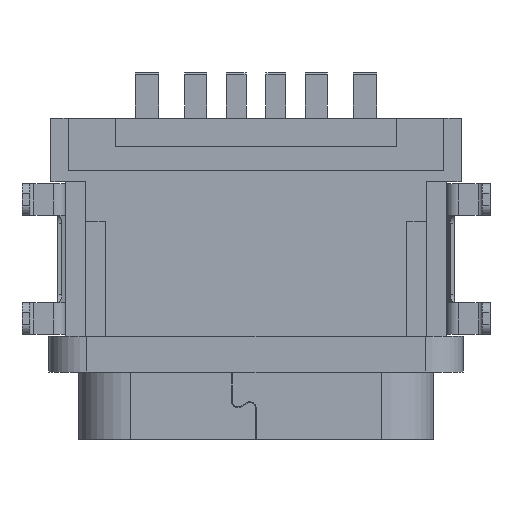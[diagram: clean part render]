
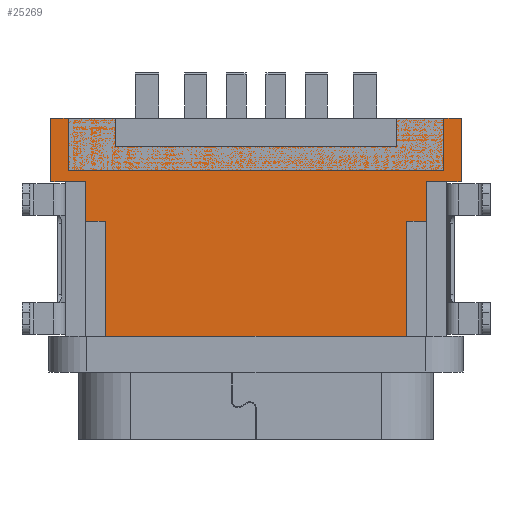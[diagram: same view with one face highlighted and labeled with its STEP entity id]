
A CAD part, front view. The second image highlights one B-rep face of the part: STEP entity #25269.
In plain terms, the highlighted planar face has unit normal (0, -1, 0).
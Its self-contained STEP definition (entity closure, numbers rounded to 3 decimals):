
#24203=DIRECTION('',(0.,0.,-1.));
#24204=VECTOR('',#24203,0.725);
#24205=CARTESIAN_POINT('',(18.55,-2.23,7.925));
#24206=LINE('',#24205,#24204);
#24220=DIRECTION('',(-1.,0.,0.));
#24221=VECTOR('',#24220,1.62);
#24222=CARTESIAN_POINT('',(20.17,-2.23,7.925));
#24223=LINE('',#24222,#24221);
#24232=DIRECTION('',(-1.,0.,0.));
#24233=VECTOR('',#24232,1.62);
#24234=CARTESIAN_POINT('',(11.45,-2.23,7.925));
#24235=LINE('',#24234,#24233);
#24269=DIRECTION('',(0.,0.,-1.));
#24270=VECTOR('',#24269,1.6);
#24271=CARTESIAN_POINT('',(9.83,-2.23,7.925));
#24272=LINE('',#24271,#24270);
#24277=DIRECTION('',(0.,0.,1.));
#24278=VECTOR('',#24277,3.9);
#24279=CARTESIAN_POINT('',(19.3,-2.23,2.425));
#24280=LINE('',#24279,#24278);
#24313=DIRECTION('',(0.,0.,-1.));
#24314=VECTOR('',#24313,3.9);
#24315=CARTESIAN_POINT('',(10.7,-2.23,6.325));
#24316=LINE('',#24315,#24314);
#24365=DIRECTION('',(1.,0.,0.));
#24366=VECTOR('',#24365,8.6);
#24367=CARTESIAN_POINT('',(10.7,-2.23,2.425));
#24368=LINE('',#24367,#24366);
#24661=DIRECTION('',(1.,0.,0.));
#24662=VECTOR('',#24661,0.87);
#24663=CARTESIAN_POINT('',(9.83,-2.23,6.325));
#24664=LINE('',#24663,#24662);
#24703=DIRECTION('',(1.,0.,0.));
#24704=VECTOR('',#24703,0.87);
#24705=CARTESIAN_POINT('',(19.3,-2.23,6.325));
#24706=LINE('',#24705,#24704);
#24711=DIRECTION('',(0.,0.,1.));
#24712=VECTOR('',#24711,1.6);
#24713=CARTESIAN_POINT('',(20.17,-2.23,6.325));
#24714=LINE('',#24713,#24712);
#24823=DIRECTION('',(0.,0.,1.));
#24824=VECTOR('',#24823,0.725);
#24825=CARTESIAN_POINT('',(11.45,-2.23,7.2));
#24826=LINE('',#24825,#24824);
#24835=DIRECTION('',(-1.,0.,0.));
#24836=VECTOR('',#24835,7.1);
#24837=CARTESIAN_POINT('',(18.55,-2.23,7.2));
#24838=LINE('',#24837,#24836);
#24902=CARTESIAN_POINT('',(18.55,-2.23,7.925));
#24903=VERTEX_POINT('',#24902);
#24904=CARTESIAN_POINT('',(18.55,-2.23,7.2));
#24905=VERTEX_POINT('',#24904);
#24912=CARTESIAN_POINT('',(20.17,-2.23,7.925));
#24913=VERTEX_POINT('',#24912);
#24914=CARTESIAN_POINT('',(11.45,-2.23,7.925));
#24915=VERTEX_POINT('',#24914);
#24916=CARTESIAN_POINT('',(9.83,-2.23,7.925));
#24917=VERTEX_POINT('',#24916);
#24930=CARTESIAN_POINT('',(9.83,-2.23,6.325));
#24931=VERTEX_POINT('',#24930);
#24932=CARTESIAN_POINT('',(19.3,-2.23,2.425));
#24933=CARTESIAN_POINT('',(19.3,-2.23,6.325));
#24934=VERTEX_POINT('',#24932);
#24935=VERTEX_POINT('',#24933);
#24936=CARTESIAN_POINT('',(10.7,-2.23,2.425));
#24937=VERTEX_POINT('',#24936);
#24938=CARTESIAN_POINT('',(10.7,-2.23,6.325));
#24939=VERTEX_POINT('',#24938);
#24940=CARTESIAN_POINT('',(11.45,-2.23,7.2));
#24941=VERTEX_POINT('',#24940);
#24942=CARTESIAN_POINT('',(20.17,-2.23,6.325));
#24943=VERTEX_POINT('',#24942);
#25242=CARTESIAN_POINT('',(15.,-2.23,4.95));
#25243=DIRECTION('',(0.,1.,0.));
#25244=DIRECTION('',(1.,0.,0.));
#25245=AXIS2_PLACEMENT_3D('',#25242,#25243,#25244);
#25246=PLANE('',#25245);
#25248=ORIENTED_EDGE('',*,*,#25247,.F.);
#25250=ORIENTED_EDGE('',*,*,#25249,.F.);
#25252=ORIENTED_EDGE('',*,*,#25251,.F.);
#25254=ORIENTED_EDGE('',*,*,#25253,.F.);
#25255=ORIENTED_EDGE('',*,*,#25235,.F.);
#25256=ORIENTED_EDGE('',*,*,#25174,.F.);
#25258=ORIENTED_EDGE('',*,*,#25257,.F.);
#25260=ORIENTED_EDGE('',*,*,#25259,.F.);
#25261=ORIENTED_EDGE('',*,*,#25149,.F.);
#25262=ORIENTED_EDGE('',*,*,#25167,.F.);
#25264=ORIENTED_EDGE('',*,*,#25263,.F.);
#25266=ORIENTED_EDGE('',*,*,#25265,.F.);
#25267=EDGE_LOOP('',(#25248,#25250,#25252,#25254,#25255,#25256,#25258,#25260,
#25261,#25262,#25264,#25266));
#25268=FACE_OUTER_BOUND('',#25267,.F.);
#25269=ADVANCED_FACE('',(#25268),#25246,.F.);
#25149=EDGE_CURVE('',#24903,#24905,#24206,.T.);
#25167=EDGE_CURVE('',#24913,#24903,#24223,.T.);
#25174=EDGE_CURVE('',#24915,#24917,#24235,.T.);
#25235=EDGE_CURVE('',#24917,#24931,#24272,.T.);
#25247=EDGE_CURVE('',#24934,#24935,#24280,.T.);
#25249=EDGE_CURVE('',#24937,#24934,#24368,.T.);
#25251=EDGE_CURVE('',#24939,#24937,#24316,.T.);
#25253=EDGE_CURVE('',#24931,#24939,#24664,.T.);
#25257=EDGE_CURVE('',#24941,#24915,#24826,.T.);
#25259=EDGE_CURVE('',#24905,#24941,#24838,.T.);
#25263=EDGE_CURVE('',#24943,#24913,#24714,.T.);
#25265=EDGE_CURVE('',#24935,#24943,#24706,.T.);
